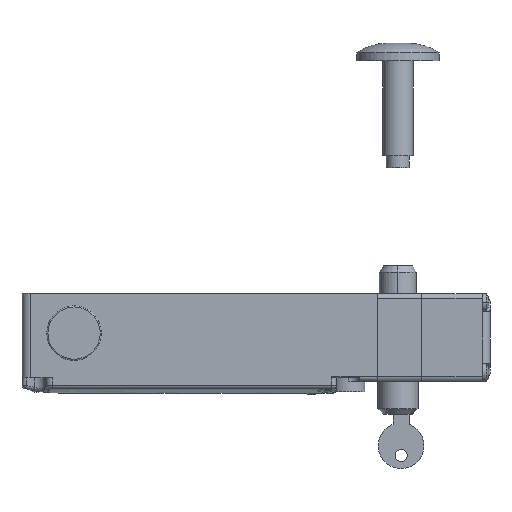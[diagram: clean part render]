
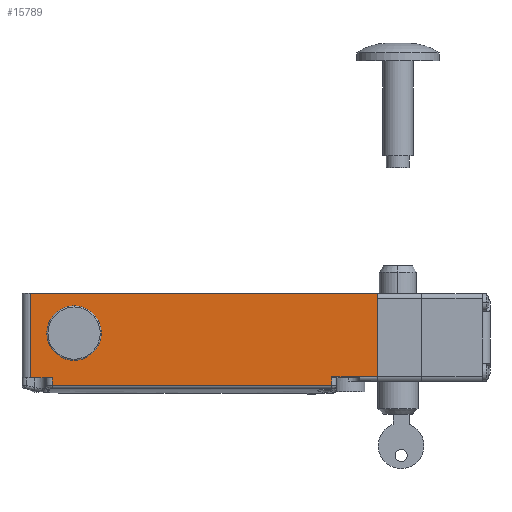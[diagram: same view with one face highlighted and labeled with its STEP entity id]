
A CAD part, front view. The second image highlights one B-rep face of the part: STEP entity #15789.
In plain terms, the highlighted planar face has unit normal (0, -1, 0).
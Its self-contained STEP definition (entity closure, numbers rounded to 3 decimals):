
#1543 = CARTESIAN_POINT ( 'NONE',  ( -125.5, -20.1, -8. ) ) ;
#1707 = DIRECTION ( 'NONE',  ( 0., 0., 1. ) ) ;
#1708 = DIRECTION ( 'NONE',  ( 0., 1., 0. ) ) ;
#1709 = CARTESIAN_POINT ( 'NONE',  ( -125.5, -20.1, 2. ) ) ;
#1710 = AXIS2_PLACEMENT_3D ( 'NONE', #1709, #1708, #1707 ) ;
#1711 = CIRCLE ( 'NONE', #1710, 10. ) ;
#1770 = CARTESIAN_POINT ( 'NONE',  ( -125.5, -20.1, 12. ) ) ;
#4688 = CARTESIAN_POINT ( 'NONE',  ( 13.9, -20.1, 20.3 ) ) ;
#4689 = DIRECTION ( 'NONE',  ( -1., 0., 0. ) ) ;
#4690 = VECTOR ( 'NONE', #4689, 1000. ) ;
#4691 = CARTESIAN_POINT ( 'NONE',  ( -145.4, -20.1, 20.3 ) ) ;
#4692 = LINE ( 'NONE', #4691, #4690 ) ;
#4693 = CARTESIAN_POINT ( 'NONE',  ( -145.4, -20.1, 20.3 ) ) ;
#5691 = DIRECTION ( 'NONE',  ( 0., 0., -1. ) ) ;
#5692 = VECTOR ( 'NONE', #5691, 1000. ) ;
#5693 = CARTESIAN_POINT ( 'NONE',  ( 13.9, -20.1, 20.3 ) ) ;
#5699 = LINE ( 'NONE', #5693, #5692 ) ;
#5700 = CARTESIAN_POINT ( 'NONE',  ( 13.9, -20.1, -18. ) ) ;
#6405 = CARTESIAN_POINT ( 'NONE',  ( -145.4, -20.1, -21.965 ) ) ;
#6406 = LINE ( 'NONE', #6405, #6679 ) ;
#6411 = CARTESIAN_POINT ( 'NONE',  ( -135.5, -20.1, -21.965 ) ) ;
#6578 = CARTESIAN_POINT ( 'NONE',  ( -135.5, -20.1, -25.7 ) ) ;
#6579 = LINE ( 'NONE', #6578, #6641 ) ;
#6580 = DIRECTION ( 'NONE',  ( 0., 0., -1. ) ) ;
#6581 = VECTOR ( 'NONE', #6580, 1000. ) ;
#6582 = CARTESIAN_POINT ( 'NONE',  ( -145.4, -20.1, 20.3 ) ) ;
#6586 = LINE ( 'NONE', #6582, #6581 ) ;
#6640 = DIRECTION ( 'NONE',  ( 0., 0., 1. ) ) ;
#6641 = VECTOR ( 'NONE', #6640, 1000. ) ;
#6649 = CARTESIAN_POINT ( 'NONE',  ( -145.4, -20.1, -18.5 ) ) ;
#6650 = DIRECTION ( 'NONE',  ( -1., 0., 0. ) ) ;
#6651 = VECTOR ( 'NONE', #6650, 1000. ) ;
#6652 = CARTESIAN_POINT ( 'NONE',  ( -145.4, -20.1, -18.5 ) ) ;
#6653 = LINE ( 'NONE', #6652, #6651 ) ;
#6654 = CARTESIAN_POINT ( 'NONE',  ( -135.5, -20.1, -18.5 ) ) ;
#6678 = DIRECTION ( 'NONE',  ( -1., 0., 0. ) ) ;
#6679 = VECTOR ( 'NONE', #6678, 1000. ) ;
#6710 = DIRECTION ( 'NONE',  ( 0., 0., 1. ) ) ;
#6711 = DIRECTION ( 'NONE',  ( 0., 1., 0. ) ) ;
#6712 = CARTESIAN_POINT ( 'NONE',  ( -125.5, -20.1, 2. ) ) ;
#6713 = AXIS2_PLACEMENT_3D ( 'NONE', #6712, #6711, #6710 ) ;
#6714 = DIRECTION ( 'NONE',  ( 0., 0., -1. ) ) ;
#6715 = DIRECTION ( 'NONE',  ( 0., 1., 0. ) ) ;
#6716 = AXIS2_PLACEMENT_3D ( 'NONE', #6718, #6715, #6714 ) ;
#6717 = CIRCLE ( 'NONE', #6713, 10. ) ;
#6718 = CARTESIAN_POINT ( 'NONE',  ( -145.4, -20.1, 20.3 ) ) ;
#6719 = PLANE ( 'NONE',  #6716 ) ;
#6720 = FACE_OUTER_BOUND ( 'NONE', #15711, .T. ) ;
#6725 = FACE_BOUND ( 'NONE', #15732, .T. ) ;
#6728 = DIRECTION ( 'NONE',  ( -1., 0., 0. ) ) ;
#6729 = VECTOR ( 'NONE', #6728, 1000. ) ;
#6730 = CARTESIAN_POINT ( 'NONE',  ( 5.5, -20.1, -18. ) ) ;
#6731 = LINE ( 'NONE', #6730, #6729 ) ;
#6732 = CARTESIAN_POINT ( 'NONE',  ( -7.2, -20.1, -18. ) ) ;
#6733 = DIRECTION ( 'NONE',  ( 0., 0., 1. ) ) ;
#6734 = VECTOR ( 'NONE', #6733, 1000. ) ;
#6735 = CARTESIAN_POINT ( 'NONE',  ( -7.2, -20.1, -25.7 ) ) ;
#6736 = LINE ( 'NONE', #6735, #6734 ) ;
#6737 = CARTESIAN_POINT ( 'NONE',  ( -7.2, -20.1, -21.965 ) ) ;
#13596 = VERTEX_POINT ( 'NONE', #1543 ) ;
#13710 = EDGE_CURVE ( 'NONE', #13712, #13596, #1711, .T. ) ;
#13712 = VERTEX_POINT ( 'NONE', #1770 ) ;
#14995 = VERTEX_POINT ( 'NONE', #4693 ) ;
#14997 = EDGE_CURVE ( 'NONE', #14998, #14995, #4692, .T. ) ;
#14998 = VERTEX_POINT ( 'NONE', #4688 ) ;
#15339 = VERTEX_POINT ( 'NONE', #5700 ) ;
#15346 = EDGE_CURVE ( 'NONE', #14998, #15339, #5699, .T. ) ;
#15711 = EDGE_LOOP ( 'NONE', ( #15712, #15713, #15714, #15716, #15717, #15777, #15780, #15783 ) ) ;
#15712 = ORIENTED_EDGE ( 'NONE', *, *, #15346, .F. ) ;
#15713 = ORIENTED_EDGE ( 'NONE', *, *, #14997, .T. ) ;
#15714 = ORIENTED_EDGE ( 'NONE', *, *, #15715, .T. ) ;
#15715 = EDGE_CURVE ( 'NONE', #14995, #15746, #6586, .T. ) ;
#15716 = ORIENTED_EDGE ( 'NONE', *, *, #15745, .F. ) ;
#15717 = ORIENTED_EDGE ( 'NONE', *, *, #15718, .F. ) ;
#15718 = EDGE_CURVE ( 'NONE', #15776, #15743, #6579, .T. ) ;
#15732 = EDGE_LOOP ( 'NONE', ( #15790, #15791 ) ) ;
#15743 = VERTEX_POINT ( 'NONE', #6654 ) ;
#15745 = EDGE_CURVE ( 'NONE', #15743, #15746, #6653, .T. ) ;
#15746 = VERTEX_POINT ( 'NONE', #6649 ) ;
#15776 = VERTEX_POINT ( 'NONE', #6411 ) ;
#15777 = ORIENTED_EDGE ( 'NONE', *, *, #15778, .F. ) ;
#15778 = EDGE_CURVE ( 'NONE', #15779, #15776, #6406, .T. ) ;
#15779 = VERTEX_POINT ( 'NONE', #6737 ) ;
#15780 = ORIENTED_EDGE ( 'NONE', *, *, #15781, .T. ) ;
#15781 = EDGE_CURVE ( 'NONE', #15779, #15782, #6736, .T. ) ;
#15782 = VERTEX_POINT ( 'NONE', #6732 ) ;
#15783 = ORIENTED_EDGE ( 'NONE', *, *, #15784, .F. ) ;
#15784 = EDGE_CURVE ( 'NONE', #15339, #15782, #6731, .T. ) ;
#15789 = ADVANCED_FACE ( 'NONE', ( #6725, #6720 ), #6719, .F. ) ;
#15790 = ORIENTED_EDGE ( 'NONE', *, *, #13710, .T. ) ;
#15791 = ORIENTED_EDGE ( 'NONE', *, *, #15792, .T. ) ;
#15792 = EDGE_CURVE ( 'NONE', #13596, #13712, #6717, .T. ) ;
